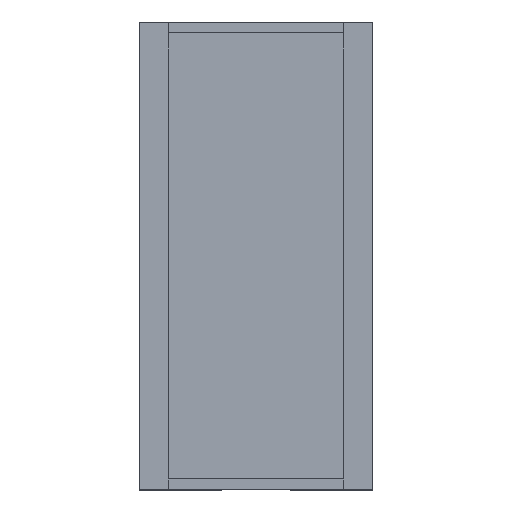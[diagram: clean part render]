
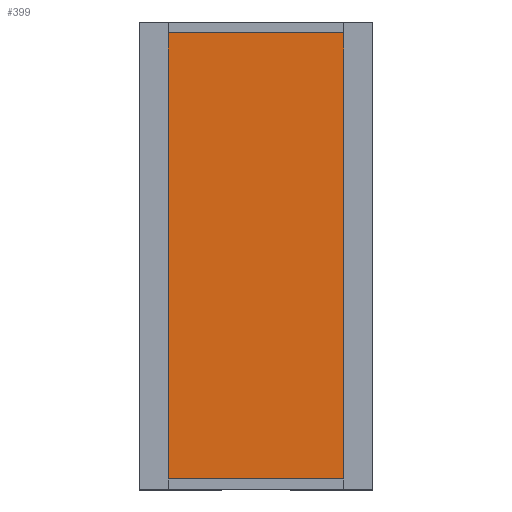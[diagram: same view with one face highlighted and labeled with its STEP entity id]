
A CAD part, top view. The second image highlights one B-rep face of the part: STEP entity #399.
In plain terms, the highlighted planar face has unit normal (0, 0, 1).
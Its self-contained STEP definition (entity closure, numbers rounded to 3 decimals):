
#17=FACE_OUTER_BOUND('',#39,.T.);
#39=EDGE_LOOP('',(#273,#274,#275,#276));
#61=LINE('',#565,#117);
#66=LINE('',#575,#122);
#68=LINE('',#579,#124);
#69=LINE('',#580,#125);
#117=VECTOR('',#461,10.);
#122=VECTOR('',#468,10.);
#124=VECTOR('',#472,10.);
#125=VECTOR('',#473,10.);
#173=VERTEX_POINT('',#562);
#174=VERTEX_POINT('',#564);
#178=VERTEX_POINT('',#574);
#179=VERTEX_POINT('',#578);
#209=EDGE_CURVE('',#174,#173,#61,.T.);
#214=EDGE_CURVE('',#174,#178,#66,.T.);
#216=EDGE_CURVE('',#178,#179,#68,.T.);
#217=EDGE_CURVE('',#179,#173,#69,.T.);
#273=ORIENTED_EDGE('',*,*,#216,.F.);
#274=ORIENTED_EDGE('',*,*,#214,.F.);
#275=ORIENTED_EDGE('',*,*,#209,.T.);
#276=ORIENTED_EDGE('',*,*,#217,.F.);
#377=PLANE('',#435);
#399=ADVANCED_FACE('',(#17),#377,.F.);
#435=AXIS2_PLACEMENT_3D('',#577,#470,#471);
#461=DIRECTION('',(0.,1.,0.));
#468=DIRECTION('',(-1.,0.,0.));
#470=DIRECTION('center_axis',(0.,0.,-1.));
#471=DIRECTION('ref_axis',(-1.,0.,0.));
#472=DIRECTION('',(0.,1.,0.));
#473=DIRECTION('',(1.,0.,0.));
#562=CARTESIAN_POINT('',(1.2,3.05,0.55));
#564=CARTESIAN_POINT('',(1.2,-3.05,0.55));
#565=CARTESIAN_POINT('',(1.2,0.,0.55));
#574=CARTESIAN_POINT('',(-1.2,-3.05,0.55));
#575=CARTESIAN_POINT('',(1.2,-3.05,0.55));
#577=CARTESIAN_POINT('Origin',(0.,0.,0.55));
#578=CARTESIAN_POINT('',(-1.2,3.05,0.55));
#579=CARTESIAN_POINT('',(-1.2,0.,0.55));
#580=CARTESIAN_POINT('',(1.2,3.05,0.55));
